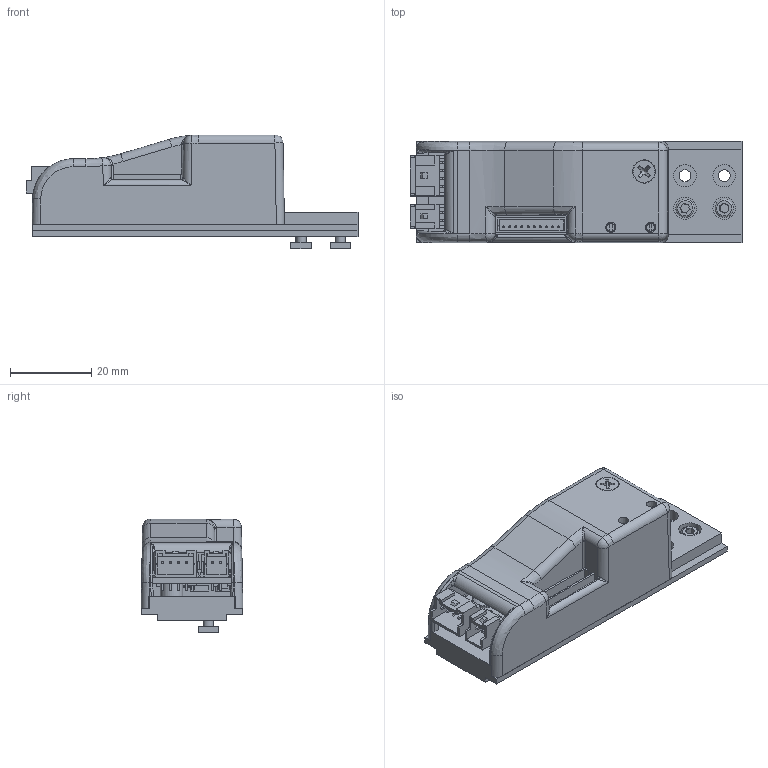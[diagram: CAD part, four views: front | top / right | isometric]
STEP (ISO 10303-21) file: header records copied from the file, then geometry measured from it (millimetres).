
FILE_DESCRIPTION((''),'2;1');
FILE_NAME('Q:\LCR-DUMMY-FILES\ION-DRIVE-006-2349-01-SIDEB.stp','2011-01-20T11:29:46',('MB20050'),(''),'Autodesk Inventor 2010','Autodesk Inventor 2010','');
FILE_SCHEMA(('AUTOMOTIVE_DESIGN { 1 0 10303 214 1 1 1 1 }'));
Length unit declared in the file: inch
Products named in the file (1): ION-DRIVE-006-2349-01-SIDEB
Bounding box: 81.56 x 25 x 28 mm (x, y, z)
Surface area: 15984.4 mm2 (no closed solid volume)
Topology: 0 solids, 71 shells, 316 faces, 1030 edges, 768 vertices
Faces by surface type: plane 219, cylinder 58, bspline 21, cone 9, sphere 6, torus 3
Full cylindrical faces by diameter (mm): 0.5 x1, 2.459 x1, 2.5 x2, 2.9 x2, 5.5 x4, 5.563 x2, 5.9 x1, 6.3 x1
Entity records: 12459 total; most frequent: CARTESIAN_POINT 2971, DIRECTION 1769, ORIENTED_EDGE 1517, EDGE_CURVE 992, VERTEX_POINT 761, VECTOR 703, LINE 703, AXIS2_PLACEMENT_3D 533
